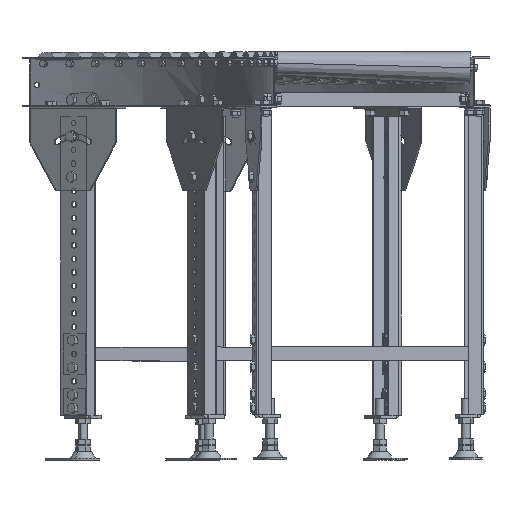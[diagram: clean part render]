
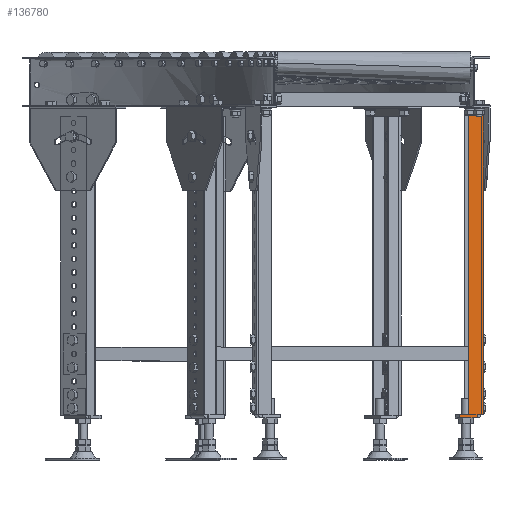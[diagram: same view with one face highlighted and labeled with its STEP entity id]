
A CAD part, top view. The second image highlights one B-rep face of the part: STEP entity #136780.
In plain terms, the highlighted planar face has unit normal (0.131, 0, 0.991).
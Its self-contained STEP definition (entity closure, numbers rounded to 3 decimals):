
#5427 = EDGE_CURVE ( 'NONE', #76088, #57353, #140643, .T. ) ;
#11700 = EDGE_CURVE ( 'NONE', #29494, #24745, #72839, .T. ) ;
#12084 = VECTOR ( 'NONE', #66824, 1000. ) ;
#14941 = DIRECTION ( 'NONE',  ( -0.131, 0., -0.991 ) ) ;
#15220 = VECTOR ( 'NONE', #99622, 1000. ) ;
#15908 = CARTESIAN_POINT ( 'NONE',  ( 1256.398, -117.5, -135.149 ) ) ;
#16017 = CARTESIAN_POINT ( 'NONE',  ( 1272.063, -667.5, -137.211 ) ) ;
#17043 = EDGE_CURVE ( 'NONE', #64572, #59346, #124339, .T. ) ;
#18913 = EDGE_CURVE ( 'NONE', #115154, #76088, #135851, .T. ) ;
#20131 = LINE ( 'NONE', #55687, #29174 ) ;
#23286 = CARTESIAN_POINT ( 'NONE',  ( 1256.398, -117.5, -135.149 ) ) ;
#24745 = VERTEX_POINT ( 'NONE', #115679 ) ;
#29174 = VECTOR ( 'NONE', #135681, 1000. ) ;
#29494 = VERTEX_POINT ( 'NONE', #107428 ) ;
#34818 = CARTESIAN_POINT ( 'NONE',  ( 1283.167, -117.5, -138.673 ) ) ;
#39462 = LINE ( 'NONE', #116788, #116375 ) ;
#43144 = VERTEX_POINT ( 'NONE', #61361 ) ;
#43302 = EDGE_LOOP ( 'NONE', ( #108213, #80818, #126674, #134323, #145102, #46350, #111755, #53074, #44936, #111250, #66228 ) ) ;
#44362 = CARTESIAN_POINT ( 'NONE',  ( 1256.398, -667.5, -135.149 ) ) ;
#44936 = ORIENTED_EDGE ( 'NONE', *, *, #94945, .F. ) ;
#45704 = LINE ( 'NONE', #66649, #15220 ) ;
#46350 = ORIENTED_EDGE ( 'NONE', *, *, #11700, .T. ) ;
#49242 = LINE ( 'NONE', #34818, #140458 ) ;
#53074 = ORIENTED_EDGE ( 'NONE', *, *, #17043, .F. ) ;
#53195 = VERTEX_POINT ( 'NONE', #69095 ) ;
#54324 = EDGE_CURVE ( 'NONE', #57353, #69848, #129532, .T. ) ;
#55687 = CARTESIAN_POINT ( 'NONE',  ( 1239.346, -673.5, -132.904 ) ) ;
#56273 = CARTESIAN_POINT ( 'NONE',  ( 1283.167, -255., -138.673 ) ) ;
#57353 = VERTEX_POINT ( 'NONE', #115719 ) ;
#59346 = VERTEX_POINT ( 'NONE', #56273 ) ;
#60429 = PLANE ( 'NONE',  #135259 ) ;
#61168 = CARTESIAN_POINT ( 'NONE',  ( 1256.398, -667.5, -135.149 ) ) ;
#61361 = CARTESIAN_POINT ( 'NONE',  ( 1283.167, -117.5, -138.673 ) ) ;
#62122 = DIRECTION ( 'NONE',  ( 0., -1., 0. ) ) ;
#64572 = VERTEX_POINT ( 'NONE', #131563 ) ;
#66228 = ORIENTED_EDGE ( 'NONE', *, *, #123889, .F. ) ;
#66649 = CARTESIAN_POINT ( 'NONE',  ( 1283.167, -117.5, -138.673 ) ) ;
#66824 = DIRECTION ( 'NONE',  ( 0.991, 0., -0.131 ) ) ;
#67776 = VECTOR ( 'NONE', #128868, 1000. ) ;
#68679 = EDGE_CURVE ( 'NONE', #43144, #53195, #49242, .T. ) ;
#69095 = CARTESIAN_POINT ( 'NONE',  ( 1283.167, -155.299, -138.673 ) ) ;
#69201 = CARTESIAN_POINT ( 'NONE',  ( 1256.398, -117.5, -135.149 ) ) ;
#69727 = DIRECTION ( 'NONE',  ( 0., -1., 0. ) ) ;
#69848 = VERTEX_POINT ( 'NONE', #72366 ) ;
#71144 = DIRECTION ( 'NONE',  ( 0.991, 0., -0.131 ) ) ;
#71250 = CARTESIAN_POINT ( 'NONE',  ( 1256.398, -117.5, -135.149 ) ) ;
#72366 = CARTESIAN_POINT ( 'NONE',  ( 1239.346, -673.5, -132.904 ) ) ;
#72839 = LINE ( 'NONE', #44362, #12084 ) ;
#76088 = VERTEX_POINT ( 'NONE', #61168 ) ;
#80818 = ORIENTED_EDGE ( 'NONE', *, *, #5427, .T. ) ;
#82322 = VECTOR ( 'NONE', #71144, 1000. ) ;
#85236 = VECTOR ( 'NONE', #141552, 1000. ) ;
#89771 = VERTEX_POINT ( 'NONE', #147968 ) ;
#93761 = VECTOR ( 'NONE', #62122, 1000. ) ;
#94867 = DIRECTION ( 'NONE',  ( -0.991, 0., 0.131 ) ) ;
#94945 = EDGE_CURVE ( 'NONE', #53195, #64572, #39462, .T. ) ;
#95573 = EDGE_CURVE ( 'NONE', #29494, #89771, #139002, .T. ) ;
#97062 = CARTESIAN_POINT ( 'NONE',  ( 1283.167, -117.5, -138.673 ) ) ;
#99622 = DIRECTION ( 'NONE',  ( 0., -1., 0. ) ) ;
#104734 = CARTESIAN_POINT ( 'NONE',  ( 1239.346, -667.5, -132.904 ) ) ;
#105060 = EDGE_CURVE ( 'NONE', #89771, #69848, #20131, .T. ) ;
#106662 = DIRECTION ( 'NONE',  ( 0., -1., 0. ) ) ;
#107428 = CARTESIAN_POINT ( 'NONE',  ( 1272.063, -667.5, -137.211 ) ) ;
#108213 = ORIENTED_EDGE ( 'NONE', *, *, #18913, .T. ) ;
#110231 = VECTOR ( 'NONE', #147000, 1000. ) ;
#110832 = FACE_OUTER_BOUND ( 'NONE', #43302, .T. ) ;
#111250 = ORIENTED_EDGE ( 'NONE', *, *, #68679, .F. ) ;
#111755 = ORIENTED_EDGE ( 'NONE', *, *, #121774, .F. ) ;
#113397 = VECTOR ( 'NONE', #116802, 1000. ) ;
#115154 = VERTEX_POINT ( 'NONE', #23286 ) ;
#115679 = CARTESIAN_POINT ( 'NONE',  ( 1283.167, -667.5, -138.673 ) ) ;
#115719 = CARTESIAN_POINT ( 'NONE',  ( 1239.346, -667.5, -132.904 ) ) ;
#116375 = VECTOR ( 'NONE', #106662, 1000. ) ;
#116788 = CARTESIAN_POINT ( 'NONE',  ( 1283.167, -117.5, -138.673 ) ) ;
#116802 = DIRECTION ( 'NONE',  ( 0., -1., 0. ) ) ;
#121774 = EDGE_CURVE ( 'NONE', #59346, #24745, #45704, .T. ) ;
#123889 = EDGE_CURVE ( 'NONE', #115154, #43144, #138004, .T. ) ;
#124339 = LINE ( 'NONE', #97062, #93761 ) ;
#126674 = ORIENTED_EDGE ( 'NONE', *, *, #54324, .T. ) ;
#128868 = DIRECTION ( 'NONE',  ( 0., -1., 0. ) ) ;
#129532 = LINE ( 'NONE', #104734, #113397 ) ;
#131563 = CARTESIAN_POINT ( 'NONE',  ( 1283.167, -167.308, -138.673 ) ) ;
#134323 = ORIENTED_EDGE ( 'NONE', *, *, #105060, .F. ) ;
#135259 = AXIS2_PLACEMENT_3D ( 'NONE', #15908, #14941, #94867 ) ;
#135558 = CARTESIAN_POINT ( 'NONE',  ( 1239.346, -667.5, -132.904 ) ) ;
#135681 = DIRECTION ( 'NONE',  ( -0.991, 0., 0.131 ) ) ;
#135851 = LINE ( 'NONE', #71250, #67776 ) ;
#136780 = ADVANCED_FACE ( 'NONE', ( #110832 ), #60429, .F. ) ;
#138004 = LINE ( 'NONE', #69201, #82322 ) ;
#139002 = LINE ( 'NONE', #16017, #85236 ) ;
#140458 = VECTOR ( 'NONE', #69727, 1000. ) ;
#140643 = LINE ( 'NONE', #135558, #110231 ) ;
#141552 = DIRECTION ( 'NONE',  ( 0., -1., 0. ) ) ;
#145102 = ORIENTED_EDGE ( 'NONE', *, *, #95573, .F. ) ;
#147000 = DIRECTION ( 'NONE',  ( -0.991, 0., 0.131 ) ) ;
#147968 = CARTESIAN_POINT ( 'NONE',  ( 1272.063, -673.5, -137.211 ) ) ;
